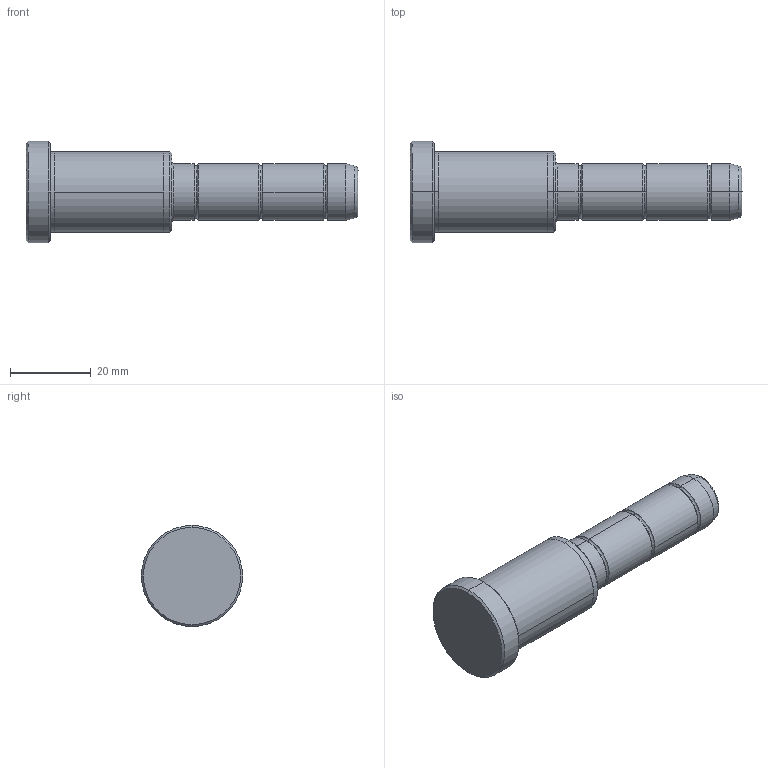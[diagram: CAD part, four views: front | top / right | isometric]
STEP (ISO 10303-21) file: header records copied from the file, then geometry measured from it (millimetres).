
FILE_DESCRIPTION (( 'STEP AP214' ), '1' );
FILE_NAME ('D02_14x36x46.step', '2011-12-25T21:08:33', ( 'Dell' ), ( '' ), 'SwSTEP 2.0', 'SolidWorks 2010', '' );
FILE_SCHEMA (( 'AUTOMOTIVE_DESIGN' ));
Length unit declared in the file: millimetre
Products named in the file (1): D02_14x36x46
Bounding box: 82 x 25 x 25 mm (x, y, z)
Volume: 19338.2 mm3; surface area: 5309.7 mm2
Topology: 1 solids, 1 shells, 48 faces, 100 edges, 58 vertices
Faces by surface type: cylinder 16, bspline 16, cone 10, plane 6
Entity records: 1478 total; most frequent: CARTESIAN_POINT 509, ORIENTED_EDGE 200, DIRECTION 198, EDGE_CURVE 100, AXIS2_PLACEMENT_3D 87, VERTEX_POINT 58, CIRCLE 54, EDGE_LOOP 52
